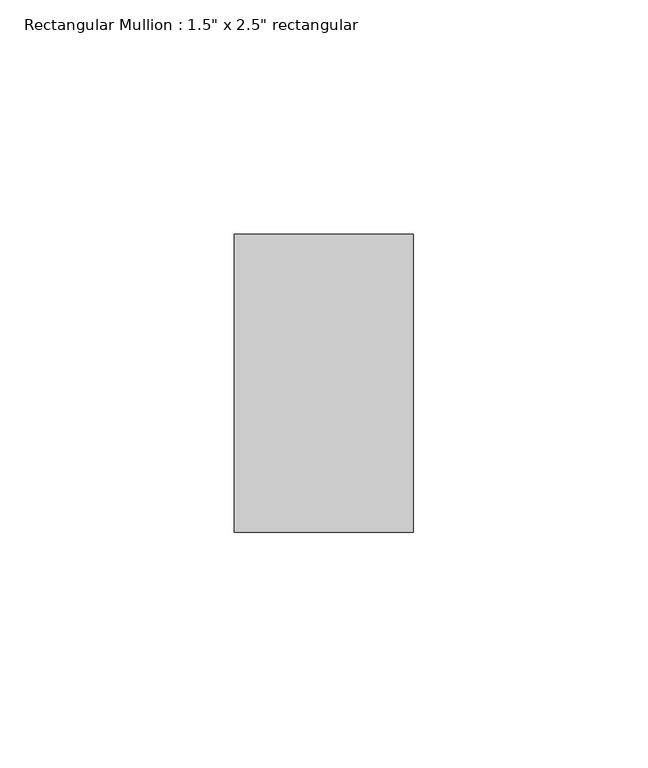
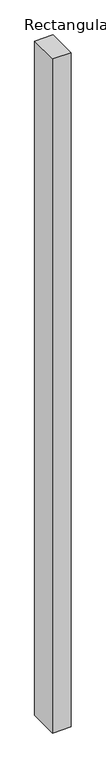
"""IFC4 building model written with IfcOpenShell, lengths in millimetres: member geometry."""

from ifc_helpers import new_model, si_unit, frame, origin, place, context, project, spatial, polyline, outline, extrude, source, transform, mapped, element, save


def member_4c4cfe9a(model_context):
    return source(origin(), model_context, "Body", "SweptSolid", [
        extrude(outline(polyline([(19.05, 31.75), (19.05, -31.75), (-19.05, -31.75), (-19.05, 31.75), (19.05, 31.75)])), frame((0.0, 0.0, -1470.7968876), z_axis=(0.0, 0.0, 1.0), x_axis=(1.0, 0.0, 0.0)), (0.0, 0.0, 1.0), 1470.7968876),
    ])


if __name__ == "__main__":
    model = new_model("IFC4")
    model_context = context("Model", 3, world=origin())
    ifc_project = project(units=[si_unit("LENGTHUNIT", "METRE", prefix="MILLI")], contexts=[model_context])
    site = spatial("IfcSite", under=ifc_project)
    building = spatial("IfcBuilding", under=site)
    placement = place(None, origin())
    member_shape = member_4c4cfe9a(model_context)
    element("IfcMember", 1, ObjectType="Rectangular Mullion : 1.5\" x 2.5\" rectangular", at=placement, inside=building, context=model_context, shape_type="MappedRepresentation", body=[
        mapped(member_shape, transform((0.0, 0.0, 0.0), x_axis=(1.0, 0.0, 0.0), y_axis=(0.0, 1.0, 0.0), z_axis=(0.0, 0.0, 1.0))),
    ])
    save(model, "model.ifc")
